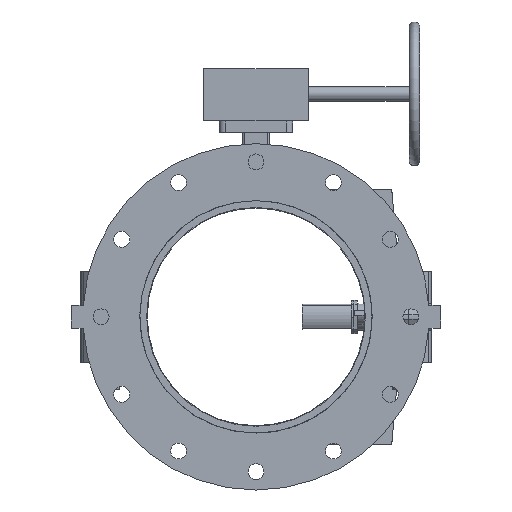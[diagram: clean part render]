
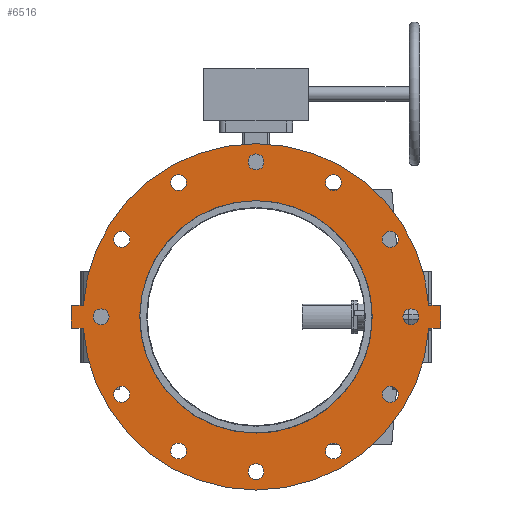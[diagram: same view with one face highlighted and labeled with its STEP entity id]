
A CAD part, front view. The second image highlights one B-rep face of the part: STEP entity #6516.
In plain terms, the highlighted planar face has unit normal (0, -1, 0) as drawn and (0, 0, -1) by its records, which use the part's own axes.
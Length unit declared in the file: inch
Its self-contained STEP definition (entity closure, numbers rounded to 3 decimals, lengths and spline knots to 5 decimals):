
#156=FACE_BOUND('',#844,.T.);
#157=FACE_BOUND('',#845,.T.);
#158=FACE_BOUND('',#846,.T.);
#159=FACE_BOUND('',#847,.T.);
#160=FACE_BOUND('',#848,.T.);
#161=FACE_BOUND('',#849,.T.);
#162=FACE_BOUND('',#850,.T.);
#163=FACE_BOUND('',#851,.T.);
#164=FACE_BOUND('',#852,.T.);
#165=FACE_BOUND('',#853,.T.);
#166=FACE_BOUND('',#854,.T.);
#167=FACE_BOUND('',#855,.T.);
#168=FACE_BOUND('',#856,.T.);
#250=PLANE('',#7090);
#483=FACE_OUTER_BOUND('',#843,.T.);
#843=EDGE_LOOP('',(#4223,#4224,#4225,#4226,#4227,#4228,#4229,#4230));
#844=EDGE_LOOP('',(#4231));
#845=EDGE_LOOP('',(#4232));
#846=EDGE_LOOP('',(#4233));
#847=EDGE_LOOP('',(#4234));
#848=EDGE_LOOP('',(#4235));
#849=EDGE_LOOP('',(#4236));
#850=EDGE_LOOP('',(#4237));
#851=EDGE_LOOP('',(#4238));
#852=EDGE_LOOP('',(#4239));
#853=EDGE_LOOP('',(#4240));
#854=EDGE_LOOP('',(#4241));
#855=EDGE_LOOP('',(#4242));
#856=EDGE_LOOP('',(#4243,#4244));
#1297=LINE('',#9878,#1785);
#1298=LINE('',#9880,#1786);
#1299=LINE('',#9882,#1787);
#1300=LINE('',#9886,#1788);
#1301=LINE('',#9888,#1789);
#1302=LINE('',#9889,#1790);
#1785=VECTOR('',#7897,0.3937);
#1786=VECTOR('',#7898,0.3937);
#1787=VECTOR('',#7899,0.3937);
#1788=VECTOR('',#7902,0.3937);
#1789=VECTOR('',#7903,0.3937);
#1790=VECTOR('',#7904,0.3937);
#2262=CIRCLE('',#7056,0.4375);
#2264=CIRCLE('',#7059,0.4375);
#2266=CIRCLE('',#7062,0.4375);
#2268=CIRCLE('',#7065,0.4375);
#2270=CIRCLE('',#7068,0.4375);
#2272=CIRCLE('',#7071,0.4375);
#2274=CIRCLE('',#7074,0.4375);
#2276=CIRCLE('',#7077,0.4375);
#2278=CIRCLE('',#7080,0.4375);
#2280=CIRCLE('',#7083,0.4375);
#2282=CIRCLE('',#7086,0.4375);
#2284=CIRCLE('',#7089,0.4375);
#2285=CIRCLE('',#7091,9.5);
#2286=CIRCLE('',#7092,9.5);
#2287=CIRCLE('',#7093,6.375);
#2288=CIRCLE('',#7094,6.375);
#2628=VERTEX_POINT('',#9804);
#2630=VERTEX_POINT('',#9810);
#2632=VERTEX_POINT('',#9816);
#2634=VERTEX_POINT('',#9822);
#2636=VERTEX_POINT('',#9828);
#2638=VERTEX_POINT('',#9834);
#2640=VERTEX_POINT('',#9840);
#2642=VERTEX_POINT('',#9846);
#2644=VERTEX_POINT('',#9852);
#2646=VERTEX_POINT('',#9858);
#2648=VERTEX_POINT('',#9864);
#2650=VERTEX_POINT('',#9870);
#2651=VERTEX_POINT('',#9874);
#2652=VERTEX_POINT('',#9875);
#2653=VERTEX_POINT('',#9877);
#2654=VERTEX_POINT('',#9879);
#2655=VERTEX_POINT('',#9881);
#2656=VERTEX_POINT('',#9883);
#2657=VERTEX_POINT('',#9885);
#2658=VERTEX_POINT('',#9887);
#2659=VERTEX_POINT('',#9890);
#2660=VERTEX_POINT('',#9891);
#3255=EDGE_CURVE('',#2628,#2628,#2262,.T.);
#3258=EDGE_CURVE('',#2630,#2630,#2264,.T.);
#3261=EDGE_CURVE('',#2632,#2632,#2266,.T.);
#3264=EDGE_CURVE('',#2634,#2634,#2268,.T.);
#3267=EDGE_CURVE('',#2636,#2636,#2270,.T.);
#3270=EDGE_CURVE('',#2638,#2638,#2272,.T.);
#3273=EDGE_CURVE('',#2640,#2640,#2274,.T.);
#3276=EDGE_CURVE('',#2642,#2642,#2276,.T.);
#3279=EDGE_CURVE('',#2644,#2644,#2278,.T.);
#3282=EDGE_CURVE('',#2646,#2646,#2280,.T.);
#3285=EDGE_CURVE('',#2648,#2648,#2282,.T.);
#3288=EDGE_CURVE('',#2650,#2650,#2284,.T.);
#3289=EDGE_CURVE('',#2651,#2652,#2285,.T.);
#3290=EDGE_CURVE('',#2652,#2653,#1297,.T.);
#3291=EDGE_CURVE('',#2653,#2654,#1298,.T.);
#3292=EDGE_CURVE('',#2654,#2655,#1299,.T.);
#3293=EDGE_CURVE('',#2655,#2656,#2286,.T.);
#3294=EDGE_CURVE('',#2656,#2657,#1300,.T.);
#3295=EDGE_CURVE('',#2657,#2658,#1301,.T.);
#3296=EDGE_CURVE('',#2658,#2651,#1302,.T.);
#3297=EDGE_CURVE('',#2659,#2660,#2287,.T.);
#3298=EDGE_CURVE('',#2660,#2659,#2288,.T.);
#4223=ORIENTED_EDGE('',*,*,#3289,.T.);
#4224=ORIENTED_EDGE('',*,*,#3290,.T.);
#4225=ORIENTED_EDGE('',*,*,#3291,.T.);
#4226=ORIENTED_EDGE('',*,*,#3292,.T.);
#4227=ORIENTED_EDGE('',*,*,#3293,.T.);
#4228=ORIENTED_EDGE('',*,*,#3294,.T.);
#4229=ORIENTED_EDGE('',*,*,#3295,.T.);
#4230=ORIENTED_EDGE('',*,*,#3296,.T.);
#4231=ORIENTED_EDGE('',*,*,#3255,.T.);
#4232=ORIENTED_EDGE('',*,*,#3258,.T.);
#4233=ORIENTED_EDGE('',*,*,#3261,.T.);
#4234=ORIENTED_EDGE('',*,*,#3264,.T.);
#4235=ORIENTED_EDGE('',*,*,#3267,.T.);
#4236=ORIENTED_EDGE('',*,*,#3270,.T.);
#4237=ORIENTED_EDGE('',*,*,#3273,.T.);
#4238=ORIENTED_EDGE('',*,*,#3276,.T.);
#4239=ORIENTED_EDGE('',*,*,#3279,.T.);
#4240=ORIENTED_EDGE('',*,*,#3282,.T.);
#4241=ORIENTED_EDGE('',*,*,#3285,.T.);
#4242=ORIENTED_EDGE('',*,*,#3288,.T.);
#4243=ORIENTED_EDGE('',*,*,#3297,.T.);
#4244=ORIENTED_EDGE('',*,*,#3298,.T.);
#6516=ADVANCED_FACE('',(#483,#156,#157,#158,#159,#160,#161,#162,#163,#164,
#165,#166,#167,#168),#250,.T.);
#7056=AXIS2_PLACEMENT_3D('',#9806,#7814,#7815);
#7059=AXIS2_PLACEMENT_3D('',#9812,#7821,#7822);
#7062=AXIS2_PLACEMENT_3D('',#9818,#7828,#7829);
#7065=AXIS2_PLACEMENT_3D('',#9824,#7835,#7836);
#7068=AXIS2_PLACEMENT_3D('',#9830,#7842,#7843);
#7071=AXIS2_PLACEMENT_3D('',#9836,#7849,#7850);
#7074=AXIS2_PLACEMENT_3D('',#9842,#7856,#7857);
#7077=AXIS2_PLACEMENT_3D('',#9848,#7863,#7864);
#7080=AXIS2_PLACEMENT_3D('',#9854,#7870,#7871);
#7083=AXIS2_PLACEMENT_3D('',#9860,#7877,#7878);
#7086=AXIS2_PLACEMENT_3D('',#9866,#7884,#7885);
#7089=AXIS2_PLACEMENT_3D('',#9872,#7891,#7892);
#7090=AXIS2_PLACEMENT_3D('',#9873,#7893,#7894);
#7091=AXIS2_PLACEMENT_3D('',#9876,#7895,#7896);
#7092=AXIS2_PLACEMENT_3D('',#9884,#7900,#7901);
#7093=AXIS2_PLACEMENT_3D('',#9892,#7905,#7906);
#7094=AXIS2_PLACEMENT_3D('',#9893,#7907,#7908);
#7814=DIRECTION('center_axis',(0.,0.,1.));
#7815=DIRECTION('ref_axis',(-0.866,0.5,0.));
#7821=DIRECTION('center_axis',(0.,0.,1.));
#7822=DIRECTION('ref_axis',(-0.5,0.866,0.));
#7828=DIRECTION('center_axis',(0.,0.,1.));
#7829=DIRECTION('ref_axis',(0.,1.,0.));
#7835=DIRECTION('center_axis',(0.,0.,1.));
#7836=DIRECTION('ref_axis',(0.5,0.866,0.));
#7842=DIRECTION('center_axis',(0.,0.,1.));
#7843=DIRECTION('ref_axis',(0.866,0.5,0.));
#7849=DIRECTION('center_axis',(0.,0.,1.));
#7850=DIRECTION('ref_axis',(1.,0.,0.));
#7856=DIRECTION('center_axis',(0.,0.,1.));
#7857=DIRECTION('ref_axis',(0.866,-0.5,0.));
#7863=DIRECTION('center_axis',(0.,0.,1.));
#7864=DIRECTION('ref_axis',(0.5,-0.866,0.));
#7870=DIRECTION('center_axis',(0.,0.,1.));
#7871=DIRECTION('ref_axis',(0.,-1.,0.));
#7877=DIRECTION('center_axis',(0.,0.,1.));
#7878=DIRECTION('ref_axis',(-0.5,-0.866,0.));
#7884=DIRECTION('center_axis',(0.,0.,1.));
#7885=DIRECTION('ref_axis',(-0.866,-0.5,0.));
#7891=DIRECTION('center_axis',(0.,0.,1.));
#7892=DIRECTION('ref_axis',(-1.,0.,0.));
#7893=DIRECTION('center_axis',(0.,0.,-1.));
#7894=DIRECTION('ref_axis',(-1.,0.,0.));
#7895=DIRECTION('center_axis',(0.,0.,-1.));
#7896=DIRECTION('ref_axis',(-1.,0.,0.));
#7897=DIRECTION('',(0.,1.,0.));
#7898=DIRECTION('',(1.,0.,0.));
#7899=DIRECTION('',(0.,-1.,0.));
#7900=DIRECTION('center_axis',(0.,0.,-1.));
#7901=DIRECTION('ref_axis',(-1.,0.,0.));
#7902=DIRECTION('',(0.,-1.,0.));
#7903=DIRECTION('',(-1.,0.,0.));
#7904=DIRECTION('',(0.,1.,0.));
#7905=DIRECTION('center_axis',(0.,0.,1.));
#7906=DIRECTION('ref_axis',(-1.,0.,0.));
#7907=DIRECTION('center_axis',(0.,0.,1.));
#7908=DIRECTION('ref_axis',(-1.,0.,0.));
#9804=CARTESIAN_POINT('',(-6.98233,4.03125,-0.625));
#9806=CARTESIAN_POINT('Origin',(-7.36122,4.25,-0.625));
#9810=CARTESIAN_POINT('',(-4.03125,6.98233,-0.625));
#9812=CARTESIAN_POINT('Origin',(-4.25,7.36122,-0.625));
#9816=CARTESIAN_POINT('',(0.,8.0625,-0.625));
#9818=CARTESIAN_POINT('Origin',(0.,8.5,-0.625));
#9822=CARTESIAN_POINT('',(4.03125,6.98233,-0.625));
#9824=CARTESIAN_POINT('Origin',(4.25,7.36122,-0.625));
#9828=CARTESIAN_POINT('',(6.98233,4.03125,-0.625));
#9830=CARTESIAN_POINT('Origin',(7.36122,4.25,-0.625));
#9834=CARTESIAN_POINT('',(8.0625,0.,-0.625));
#9836=CARTESIAN_POINT('Origin',(8.5,0.,-0.625));
#9840=CARTESIAN_POINT('',(6.98233,-4.03125,-0.625));
#9842=CARTESIAN_POINT('Origin',(7.36122,-4.25,-0.625));
#9846=CARTESIAN_POINT('',(4.03125,-6.98233,-0.625));
#9848=CARTESIAN_POINT('Origin',(4.25,-7.36122,-0.625));
#9852=CARTESIAN_POINT('',(0.,-8.0625,-0.625));
#9854=CARTESIAN_POINT('Origin',(0.,-8.5,-0.625));
#9858=CARTESIAN_POINT('',(-4.03125,-6.98233,-0.625));
#9860=CARTESIAN_POINT('Origin',(-4.25,-7.36122,-0.625));
#9864=CARTESIAN_POINT('',(-6.98233,-4.03125,-0.625));
#9866=CARTESIAN_POINT('Origin',(-7.36122,-4.25,-0.625));
#9870=CARTESIAN_POINT('',(-8.0625,0.,-0.625));
#9872=CARTESIAN_POINT('Origin',(-8.5,0.,-0.625));
#9873=CARTESIAN_POINT('Origin',(0.,0.,-0.625));
#9874=CARTESIAN_POINT('',(-0.625,-9.47942,-0.625));
#9875=CARTESIAN_POINT('',(-0.625,9.47942,-0.625));
#9876=CARTESIAN_POINT('Origin',(0.,0.,-0.625));
#9877=CARTESIAN_POINT('',(-0.625,10.125,-0.625));
#9878=CARTESIAN_POINT('',(-0.625,-10.125,-0.625));
#9879=CARTESIAN_POINT('',(0.625,10.125,-0.625));
#9880=CARTESIAN_POINT('',(-0.625,10.125,-0.625));
#9881=CARTESIAN_POINT('',(0.625,9.47942,-0.625));
#9882=CARTESIAN_POINT('',(0.625,10.125,-0.625));
#9883=CARTESIAN_POINT('',(0.625,-9.47942,-0.625));
#9884=CARTESIAN_POINT('Origin',(0.,0.,-0.625));
#9885=CARTESIAN_POINT('',(0.625,-10.125,-0.625));
#9886=CARTESIAN_POINT('',(0.625,10.125,-0.625));
#9887=CARTESIAN_POINT('',(-0.625,-10.125,-0.625));
#9888=CARTESIAN_POINT('',(0.625,-10.125,-0.625));
#9889=CARTESIAN_POINT('',(-0.625,-10.125,-0.625));
#9890=CARTESIAN_POINT('',(0.625,6.34429,-0.625));
#9891=CARTESIAN_POINT('',(6.375,0.,-0.625));
#9892=CARTESIAN_POINT('Origin',(0.,0.,-0.625));
#9893=CARTESIAN_POINT('Origin',(0.,0.,-0.625));
